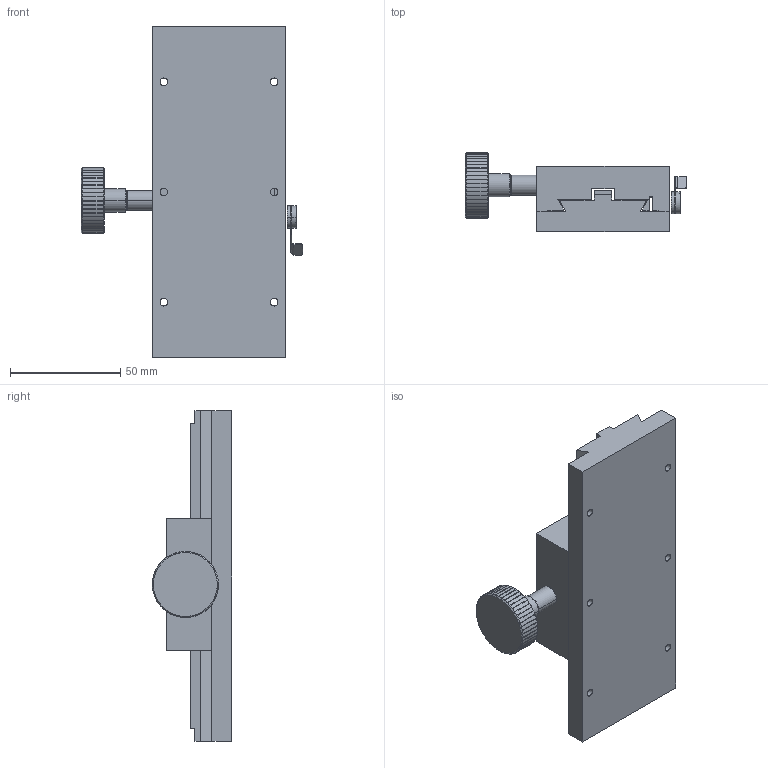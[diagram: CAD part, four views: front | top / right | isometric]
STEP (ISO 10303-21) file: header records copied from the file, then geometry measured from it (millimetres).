
FILE_DESCRIPTION (( 'STEP AP214' ), '1' );
FILE_NAME ('PT-DN60-150.STEP', '2022-08-27T07:58:14', ( '' ), ( '' ), 'SwSTEP 2.0', 'SolidWorks 2017', '' );
FILE_SCHEMA (( 'AUTOMOTIVE_DESIGN' ));
Length unit declared in the file: millimetre
Products named in the file (3): PT-DN60-150; 參忒1
Assembly tree (2 placements, depth 2):
  PT-DN60-150
    PT-DN60-150
    參忒1
Bounding box: 100.5 x 36 x 150 mm (x, y, z)
Surface area: 41775.3 mm2
Topology: 1 solids, 7 shells, 266 faces, 846 edges, 571 vertices
Faces by surface type: cylinder 205, plane 54, cone 6, bspline 1
Entity records: 11455 total; most frequent: CARTESIAN_POINT 4013, ORIENTED_EDGE 1558, DIRECTION 1455, EDGE_CURVE 846, VERTEX_POINT 571, AXIS2_PLACEMENT_3D 539, VECTOR 377, LINE 377
